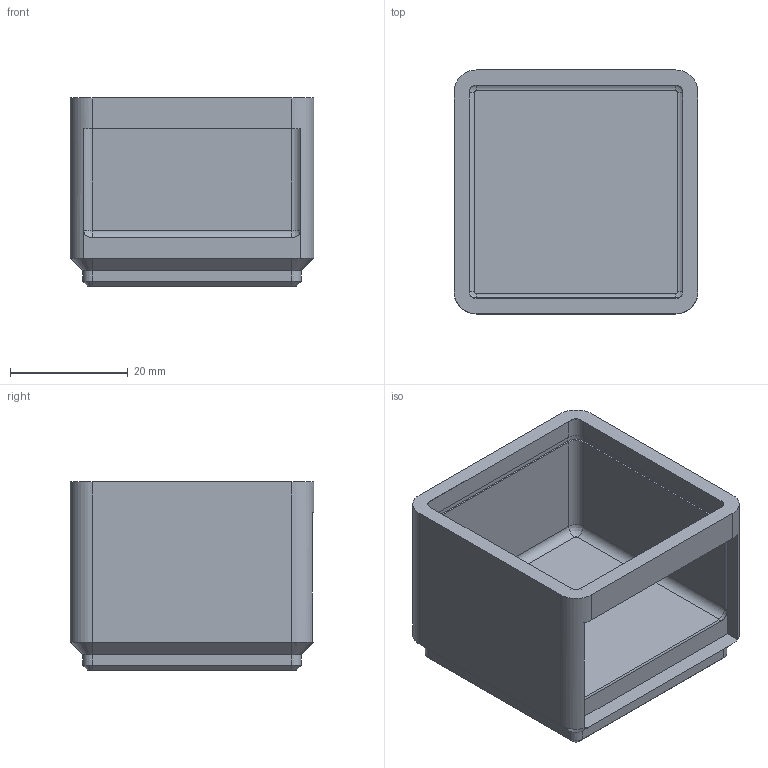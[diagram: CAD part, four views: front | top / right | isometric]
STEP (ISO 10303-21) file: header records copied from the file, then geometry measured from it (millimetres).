
FILE_DESCRIPTION(('Open CASCADE Model'),'2;1');
FILE_NAME('Open CASCADE Shape Model','2026-11-03T17:09:25',('Author'),( 'Open CASCADE'),'Open CASCADE STEP processor 8.0','build123d', 'Unknown');
FILE_SCHEMA(('AUTOMOTIVE_DESIGN { 1 0 10303 214 1 1 1 1 }'));
Length unit declared in the file: millimetre
Products named in the file (1): COMPOUND
Bounding box: 41.5 x 41.5 x 32 mm (x, y, z)
Volume: 18090.8 mm3; surface area: 10756 mm2
Topology: 1 solids, 1 shells, 82 faces, 199 edges, 120 vertices
Faces by surface type: plane 42, cylinder 24, cone 12, revolution 4
Entity records: 5114 total; most frequent: CARTESIAN_POINT 1236, DIRECTION 689, ORIENTED_EDGE 398, PCURVE 398, DEFINITIONAL_REPRESENTATION 398, LINE 373, VECTOR 373, EDGE_CURVE 199
